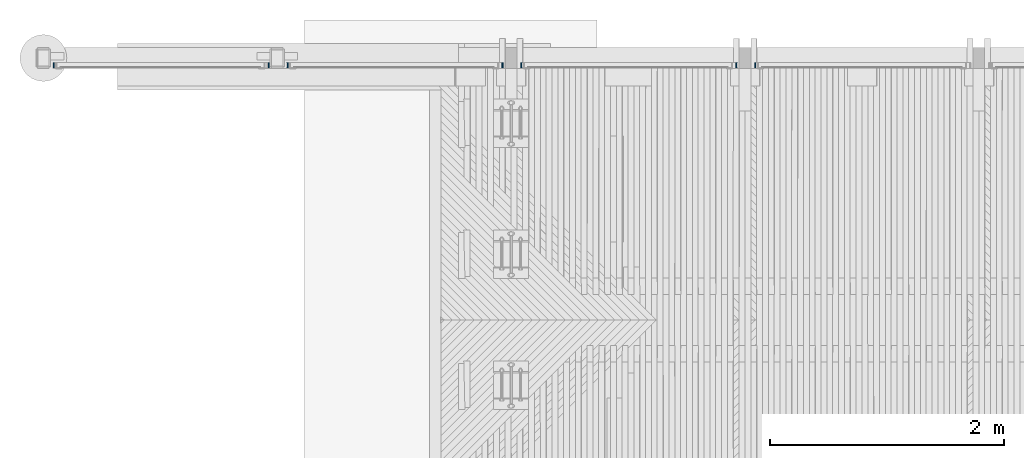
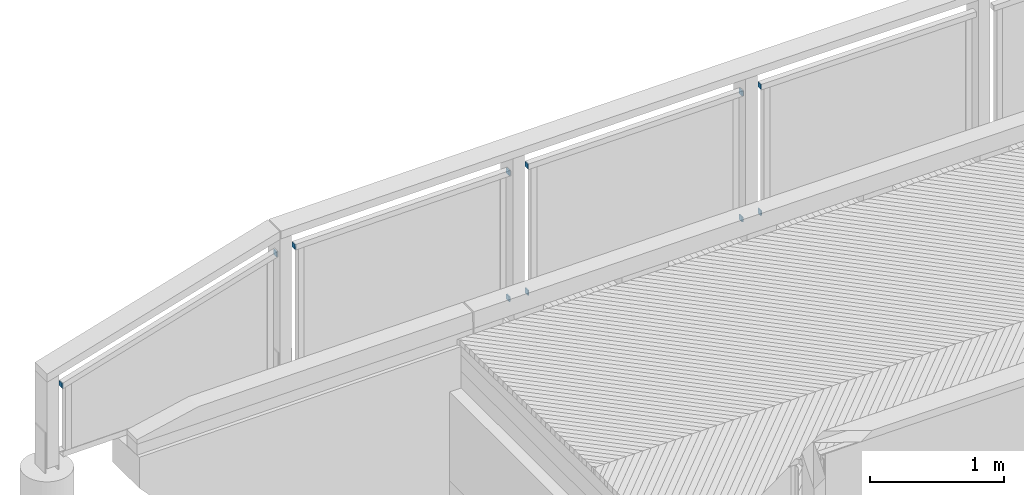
# One storey, part 58 of 65: 11 beams.
"""IFC2X3 building model written with IfcOpenShell, lengths in millimetres."""

from ifc_helpers import new_model, si_unit, frame, origin_with_axes, place, context, subcontext, project, spatial, faceted_brep, material, type_object, element, save


model = new_model("IFC2X3")

# Units and contexts
model_context = context("Model", 3, precision=1e-05, world=origin_with_axes())
body_context = subcontext(model_context, "Body", "Model", "MODEL_VIEW")
ifc_project = project(units=[si_unit("LENGTHUNIT", "METRE", prefix="MILLI"), si_unit("AREAUNIT", "SQUARE_METRE"), si_unit("VOLUMEUNIT", "CUBIC_METRE"), si_unit("MASSUNIT", "GRAM", prefix="KILO"), si_unit("TIMEUNIT", "SECOND"), si_unit("PLANEANGLEUNIT", "RADIAN"), si_unit("SOLIDANGLEUNIT", "STERADIAN"), si_unit("THERMODYNAMICTEMPERATUREUNIT", "DEGREE_CELSIUS"), si_unit("LUMINOUSINTENSITYUNIT", "LUMEN")], contexts=[model_context])

# Site, building, storey
site_placement = place(None, origin_with_axes())
site = spatial("IfcSite", under=ifc_project, at=site_placement, Name="Undefined", CompositionType="ELEMENT")
building_placement = place(site_placement, origin_with_axes())
building = spatial("IfcBuilding", under=site, at=building_placement, Name="Undefined", CompositionType="ELEMENT")
storey_placement = place(building_placement, origin_with_axes())
storey = spatial("IfcBuildingStorey", under=building, at=storey_placement, Name="Undefined", CompositionType="ELEMENT", Elevation=0.0)

# Beams
ifc_material = material(Name="STEEL/S235JR")
beam_type = type_object("IfcBeamType", Name="PL45*10", PredefinedType="NOTDEFINED")
for number, where, z_axis, x_axis, name in (
    (1, (2087.8848903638, 24519.9900000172, 4409.72901881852), (0.00623752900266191, 0.0, 0.99998054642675), (0.0, 1.0, 0.0), "BEAM"),
    (2, (-3912.61017779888, 24519.9900000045, 3797.29636618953), (0.0, 0.0, 1.0), (0.0, 1.0, 0.0), "BEAM"),
    (3, (-2072.49474525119, 24519.9900000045, 4346.75135175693), (0.0, 0.0, 1.0), (0.0, 1.0, 0.0), "BEAM"),
    (4, (-73.0570568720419, 24520.0200000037, 3239.85570382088), (-0.00021659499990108, 0.0, -0.999999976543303), (0.0, 1.0, 0.0), "BEAM"),
    (5, (-1911.93419382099, 24519.990000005, 4357.26933625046), (-0.000393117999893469, 0.0, 0.999999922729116), (0.0, 1.0, 0.0), "BEAM"),
    (6, (-73.007793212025, 24519.990000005, 4384.85318506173), (-0.000393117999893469, 0.0, 0.999999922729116), (0.0, 1.0, 0.0), "BEAM"),
    (7, (88.0132064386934, 24519.9900000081, 3241.81899297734), (-0.00292312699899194, 0.0, -0.999995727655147), (0.0, 1.0, 0.0), "BEAM"),
    (8, (1927.03003313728, 24520.0199999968, 3263.30463991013), (-0.0035317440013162, 0.0, -0.999993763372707), (0.0, 1.0, 0.0), "BEAM"),
    (9, (87.97171859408, 24519.9900000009, 4386.81397142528), (0.00292312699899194, 0.0, 0.999995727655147), (0.0, 1.0, 0.0), "BEAM"),
    (10, (1926.97948215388, 24519.9900000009, 4408.29934174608), (0.00292312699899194, 0.0, 0.999995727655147), (0.0, 1.0, 0.0), "BEAM"),
    (11, (2088.03941850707, 24519.9900000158, 3264.72927880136), (-0.00623752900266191, 0.0, -0.99998054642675), (0.0, 1.0, 0.0), "BEAM"),
):
    element("IfcBeam", number, at=place(storey_placement, frame(where, z_axis=z_axis, x_axis=x_axis)), inside=storey, type_object=beam_type, material=ifc_material, Name=name, ObjectType="PL45*10", context=body_context, shape_type="Brep", body=[
        faceted_brep([(0.0, 5.0, -22.5), (0.0, 5.0, 22.5), (45.0, 5.0, 22.5), (45.0, 5.0, -22.5), (0.0, -5.0, 22.5), (45.0, -5.0, 22.5), (0.0, -5.0, -22.5000000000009), (45.0, -5.0, -22.5000000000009)], [[[0, 1, 2, 3]], [[1, 4, 5, 2]], [[4, 6, 7, 5]], [[6, 0, 3, 7]], [[5, 7, 3, 2]], [[6, 4, 1, 0]]]),
    ])

save(model, "model.ifc")
